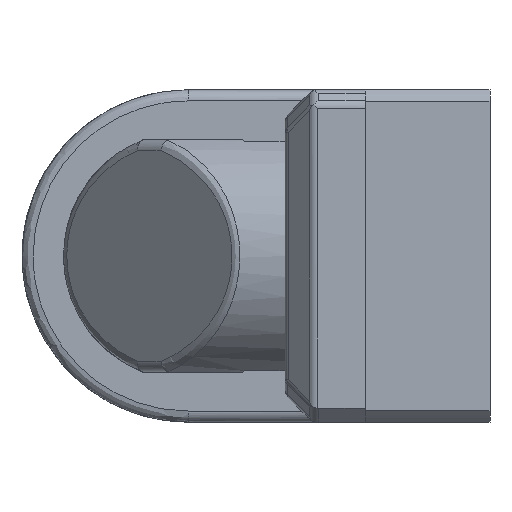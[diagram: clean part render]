
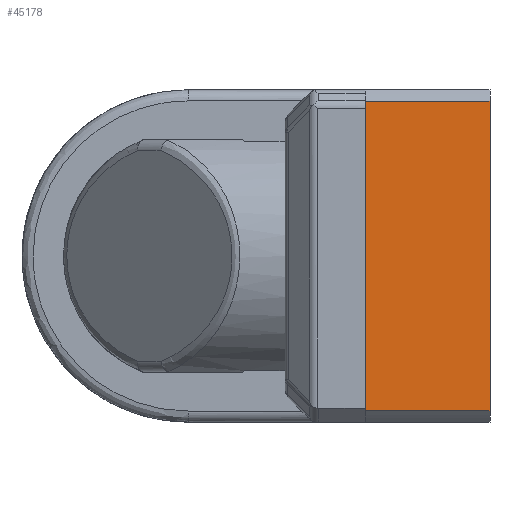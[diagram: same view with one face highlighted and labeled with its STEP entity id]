
A CAD part, front view. The second image highlights one B-rep face of the part: STEP entity #45178.
In plain terms, the highlighted planar face has unit normal (0, -1, 0).
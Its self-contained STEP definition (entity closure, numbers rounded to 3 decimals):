
#2525 = CARTESIAN_POINT ( 'NONE',  ( 55.893, -60., 0. ) ) ;
#3168 = DIRECTION ( 'NONE',  ( 1., 0., 0. ) ) ;
#3564 = CARTESIAN_POINT ( 'NONE',  ( 55.893, -60., -45. ) ) ;
#3599 = VERTEX_POINT ( 'NONE', #46838 ) ;
#4414 = EDGE_CURVE ( 'NONE', #8232, #35217, #6643, .T. ) ;
#6643 = LINE ( 'NONE', #42144, #45237 ) ;
#8232 = VERTEX_POINT ( 'NONE', #3564 ) ;
#12290 = CARTESIAN_POINT ( 'NONE',  ( -60., -60., -45. ) ) ;
#12359 = DIRECTION ( 'NONE',  ( 0., 0., 1. ) ) ;
#14482 = VECTOR ( 'NONE', #34094, 1000. ) ;
#14536 = LINE ( 'NONE', #47858, #42090 ) ;
#15366 = LINE ( 'NONE', #21836, #25330 ) ;
#15701 = LINE ( 'NONE', #30325, #14482 ) ;
#15926 = ORIENTED_EDGE ( 'NONE', *, *, #4414, .T. ) ;
#16072 = DIRECTION ( 'NONE',  ( 0., 0., -1. ) ) ;
#16775 = ORIENTED_EDGE ( 'NONE', *, *, #46506, .F. ) ;
#17811 = AXIS2_PLACEMENT_3D ( 'NONE', #12290, #38520, #16072 ) ;
#17983 = DIRECTION ( 'NONE',  ( -1., 0., 0. ) ) ;
#21836 = CARTESIAN_POINT ( 'NONE',  ( -60., -60., -45. ) ) ;
#22491 = EDGE_LOOP ( 'NONE', ( #16775, #34608, #15926, #35254 ) ) ;
#23824 = CARTESIAN_POINT ( 'NONE',  ( -55.893, -60., 0. ) ) ;
#25330 = VECTOR ( 'NONE', #3168, 1000. ) ;
#26891 = PLANE ( 'NONE',  #17811 ) ;
#27609 = EDGE_CURVE ( 'NONE', #3599, #8232, #15366, .T. ) ;
#30325 = CARTESIAN_POINT ( 'NONE',  ( -55.893, -60., 0. ) ) ;
#30690 = EDGE_CURVE ( 'NONE', #35217, #39302, #14536, .T. ) ;
#34094 = DIRECTION ( 'NONE',  ( 0., 0., 1. ) ) ;
#34608 = ORIENTED_EDGE ( 'NONE', *, *, #27609, .T. ) ;
#35078 = FACE_OUTER_BOUND ( 'NONE', #22491, .T. ) ;
#35217 = VERTEX_POINT ( 'NONE', #2525 ) ;
#35254 = ORIENTED_EDGE ( 'NONE', *, *, #30690, .T. ) ;
#38520 = DIRECTION ( 'NONE',  ( 0., -1., 0. ) ) ;
#39302 = VERTEX_POINT ( 'NONE', #23824 ) ;
#42090 = VECTOR ( 'NONE', #17983, 1000. ) ;
#42144 = CARTESIAN_POINT ( 'NONE',  ( 55.893, -60., -45. ) ) ;
#45178 = ADVANCED_FACE ( 'NONE', ( #35078 ), #26891, .T. ) ;
#45237 = VECTOR ( 'NONE', #12359, 1000. ) ;
#46506 = EDGE_CURVE ( 'NONE', #3599, #39302, #15701, .T. ) ;
#46838 = CARTESIAN_POINT ( 'NONE',  ( -55.893, -60., -45. ) ) ;
#47858 = CARTESIAN_POINT ( 'NONE',  ( 0., -60., 0. ) ) ;
